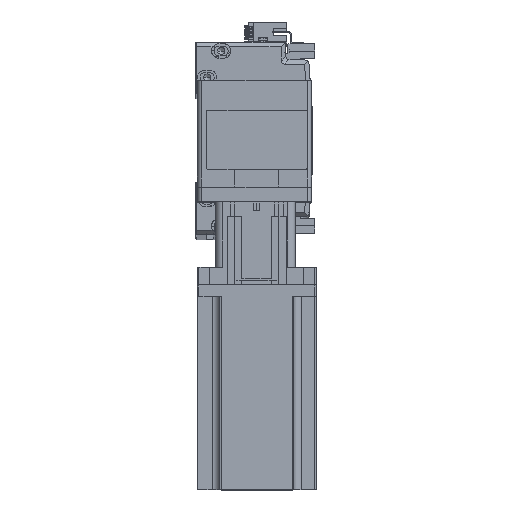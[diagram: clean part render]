
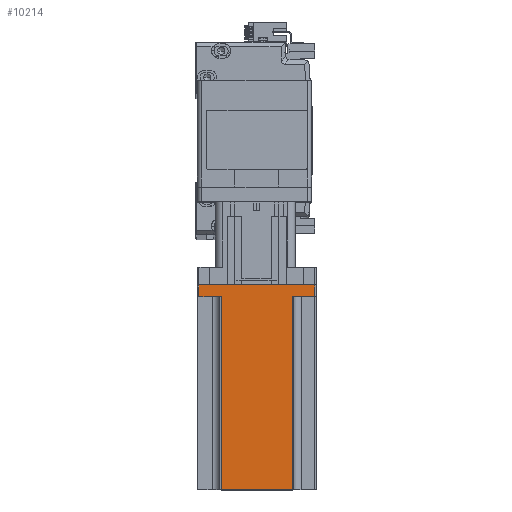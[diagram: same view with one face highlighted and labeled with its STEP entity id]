
A CAD part, top view. The second image highlights one B-rep face of the part: STEP entity #10214.
In plain terms, the highlighted planar face has unit normal (0, 0, 1) as drawn and (0, 1, 0) by its records, which use the part's own axes.
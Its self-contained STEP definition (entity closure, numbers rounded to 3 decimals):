
#207 = ORIENTED_EDGE ( 'NONE', *, *, #18242, .F. ) ;
#980 = EDGE_CURVE ( 'NONE', #50234, #16167, #46624, .T. ) ;
#5560 = LINE ( 'NONE', #21479, #28506 ) ;
#6202 = VECTOR ( 'NONE', #57090, 1000. ) ;
#6863 = CARTESIAN_POINT ( 'NONE',  ( 40., 40., 0. ) ) ;
#9114 = VERTEX_POINT ( 'NONE', #29622 ) ;
#10214 = ADVANCED_FACE ( 'NONE', ( #47534 ), #13363, .F. ) ;
#10674 = CARTESIAN_POINT ( 'NONE',  ( 39., 40., 8. ) ) ;
#12974 = VECTOR ( 'NONE', #41011, 1000. ) ;
#13363 = PLANE ( 'NONE',  #33314 ) ;
#13583 = ORIENTED_EDGE ( 'NONE', *, *, #45830, .T. ) ;
#15030 = CARTESIAN_POINT ( 'NONE',  ( 40., 40., 138.3 ) ) ;
#15808 = CARTESIAN_POINT ( 'NONE',  ( -39., 40., 138.3 ) ) ;
#16167 = VERTEX_POINT ( 'NONE', #22250 ) ;
#16365 = CARTESIAN_POINT ( 'NONE',  ( -39., 40., 0. ) ) ;
#17077 = CARTESIAN_POINT ( 'NONE',  ( 25., 40., 8. ) ) ;
#18168 = DIRECTION ( 'NONE',  ( 0., -1., 0. ) ) ;
#18242 = EDGE_CURVE ( 'NONE', #33591, #52467, #54972, .T. ) ;
#18744 = LINE ( 'NONE', #52225, #43104 ) ;
#18762 = DIRECTION ( 'NONE',  ( 0., 0., 1. ) ) ;
#19860 = DIRECTION ( 'NONE',  ( -1., 0., 0. ) ) ;
#21479 = CARTESIAN_POINT ( 'NONE',  ( 24., 40., 138.3 ) ) ;
#22250 = CARTESIAN_POINT ( 'NONE',  ( -24., 40., 8. ) ) ;
#23019 = EDGE_CURVE ( 'NONE', #9114, #33147, #53440, .T. ) ;
#23791 = CARTESIAN_POINT ( 'NONE',  ( 24., 40., 138.3 ) ) ;
#23995 = VERTEX_POINT ( 'NONE', #23791 ) ;
#24077 = CARTESIAN_POINT ( 'NONE',  ( -25., 40., 8. ) ) ;
#24465 = EDGE_CURVE ( 'NONE', #33591, #9114, #18744, .T. ) ;
#24919 = DIRECTION ( 'NONE',  ( 0., 0., -1. ) ) ;
#25239 = VECTOR ( 'NONE', #18762, 1000. ) ;
#26654 = LINE ( 'NONE', #46187, #25239 ) ;
#26957 = EDGE_CURVE ( 'NONE', #23995, #54736, #59032, .T. ) ;
#27153 = ORIENTED_EDGE ( 'NONE', *, *, #26957, .F. ) ;
#27168 = CARTESIAN_POINT ( 'NONE',  ( -39., 40., 8. ) ) ;
#28399 = ORIENTED_EDGE ( 'NONE', *, *, #28636, .T. ) ;
#28506 = VECTOR ( 'NONE', #57484, 1000. ) ;
#28636 = EDGE_CURVE ( 'NONE', #16167, #54736, #26654, .T. ) ;
#29622 = CARTESIAN_POINT ( 'NONE',  ( 39., 40., 0. ) ) ;
#30658 = VECTOR ( 'NONE', #52453, 1000. ) ;
#32162 = EDGE_LOOP ( 'NONE', ( #37770, #28399, #27153, #45897, #207, #54545, #57009, #13583 ) ) ;
#33147 = VERTEX_POINT ( 'NONE', #16365 ) ;
#33314 = AXIS2_PLACEMENT_3D ( 'NONE', #45555, #18168, #50164 ) ;
#33591 = VERTEX_POINT ( 'NONE', #10674 ) ;
#34745 = VECTOR ( 'NONE', #19860, 1000. ) ;
#35535 = DIRECTION ( 'NONE',  ( -1., 0., 0. ) ) ;
#37770 = ORIENTED_EDGE ( 'NONE', *, *, #980, .T. ) ;
#41011 = DIRECTION ( 'NONE',  ( 1., 0., 0. ) ) ;
#42758 = VECTOR ( 'NONE', #35535, 1000. ) ;
#42772 = LINE ( 'NONE', #15808, #30658 ) ;
#43104 = VECTOR ( 'NONE', #24919, 1000. ) ;
#45555 = CARTESIAN_POINT ( 'NONE',  ( 40., 40., 138.3 ) ) ;
#45830 = EDGE_CURVE ( 'NONE', #33147, #50234, #42772, .T. ) ;
#45897 = ORIENTED_EDGE ( 'NONE', *, *, #53145, .T. ) ;
#46187 = CARTESIAN_POINT ( 'NONE',  ( -24., 40., 138.3 ) ) ;
#46624 = LINE ( 'NONE', #24077, #12974 ) ;
#47534 = FACE_OUTER_BOUND ( 'NONE', #32162, .T. ) ;
#50164 = DIRECTION ( 'NONE',  ( 1., 0., 0. ) ) ;
#50234 = VERTEX_POINT ( 'NONE', #27168 ) ;
#52225 = CARTESIAN_POINT ( 'NONE',  ( 39., 40., 138.3 ) ) ;
#52434 = CARTESIAN_POINT ( 'NONE',  ( -24., 40., 138.3 ) ) ;
#52453 = DIRECTION ( 'NONE',  ( 0., 0., 1. ) ) ;
#52467 = VERTEX_POINT ( 'NONE', #56965 ) ;
#53145 = EDGE_CURVE ( 'NONE', #23995, #52467, #5560, .T. ) ;
#53440 = LINE ( 'NONE', #6863, #6202 ) ;
#54545 = ORIENTED_EDGE ( 'NONE', *, *, #24465, .T. ) ;
#54736 = VERTEX_POINT ( 'NONE', #52434 ) ;
#54972 = LINE ( 'NONE', #17077, #42758 ) ;
#56965 = CARTESIAN_POINT ( 'NONE',  ( 24., 40., 8. ) ) ;
#57009 = ORIENTED_EDGE ( 'NONE', *, *, #23019, .T. ) ;
#57090 = DIRECTION ( 'NONE',  ( -1., 0., 0. ) ) ;
#57484 = DIRECTION ( 'NONE',  ( 0., 0., -1. ) ) ;
#59032 = LINE ( 'NONE', #15030, #34745 ) ;
